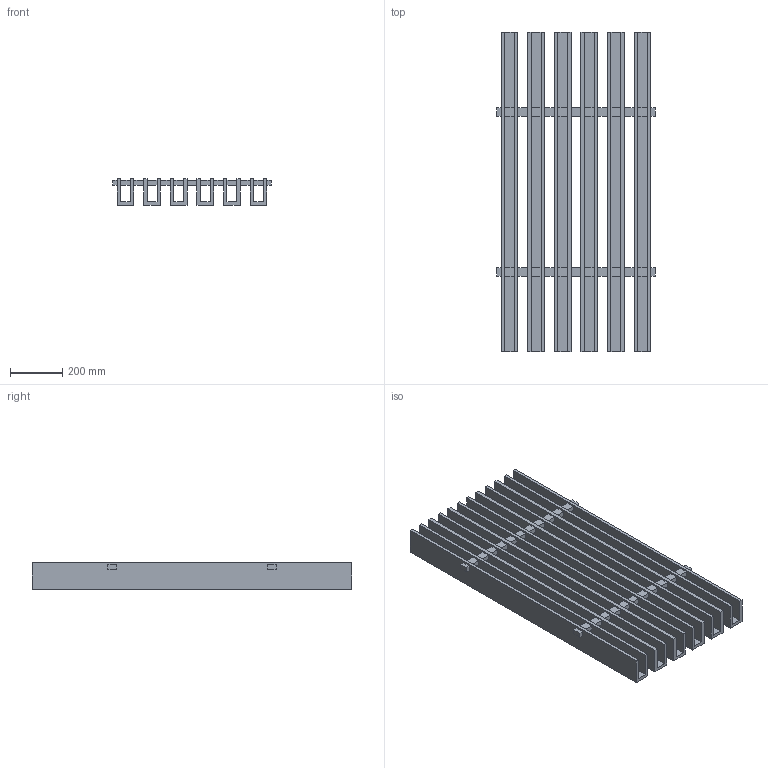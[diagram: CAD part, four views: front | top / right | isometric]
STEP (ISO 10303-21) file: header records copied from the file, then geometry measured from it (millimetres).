
FILE_DESCRIPTION(/* description */ (''),/* implementation_level */ '2;1');
FILE_NAME(/* name */ 'PET GRILLA_2.5x4_4ft',/* time_stamp */ '2024-10-15T14:21:53-05:00',/* author */ (''),/* organization */ (''),/* preprocessor_version */ 'ST-DEVELOPER v19.2',/* originating_system */ 'Rhino 8.4',/* authorisation */ '');
FILE_SCHEMA (('CONFIG_CONTROL_DESIGN'));
Length unit declared in the file: inch
Products named in the file (1): Document
Bounding box: 603.25 x 1219.2 x 101.6 mm (x, y, z)
Volume: 22962885.5 mm3; surface area: 3817895.6 mm2
Topology: 1 solids, 1 shells, 168 faces, 456 edges, 304 vertices
Faces by surface type: plane 168
Entity records: 4712 total; most frequent: CARTESIAN_POINT 1386, ORIENTED_EDGE 912, EDGE_CURVE 456, B_SPLINE_CURVE_WITH_KNOTS 456, VERTEX_POINT 304, EDGE_LOOP 216, DIRECTION 172, AXIS2_PLACEMENT_3D 170
